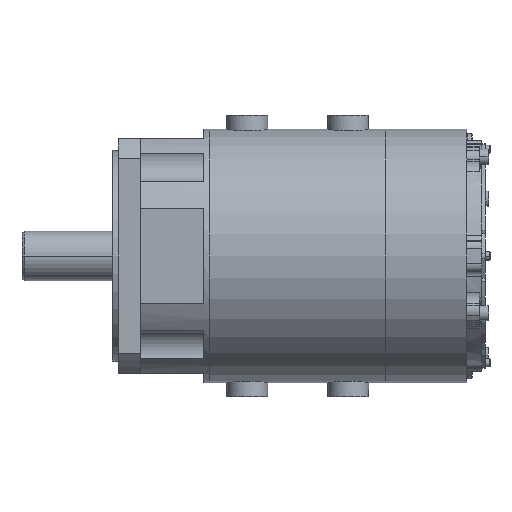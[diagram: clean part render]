
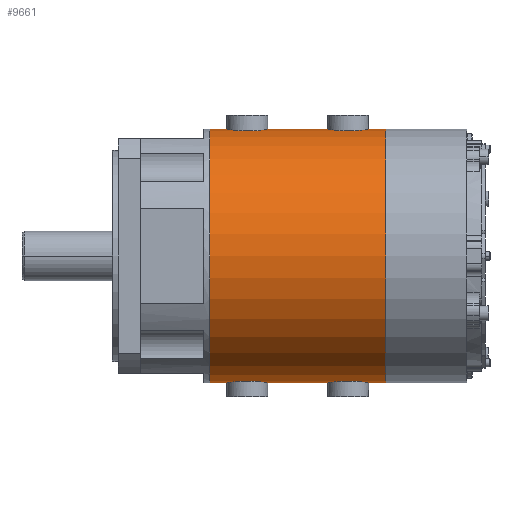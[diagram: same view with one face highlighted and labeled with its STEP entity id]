
A CAD part, front view. The second image highlights one B-rep face of the part: STEP entity #9661.
In plain terms, the highlighted cylindrical face has radius 108 mm (diameter 216 mm), a partial arc.
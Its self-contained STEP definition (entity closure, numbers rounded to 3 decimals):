
#7719=CARTESIAN_POINT('',(120.,0.,108.));
#7720=CARTESIAN_POINT('',(120.,-0.801,108.));
#7721=CARTESIAN_POINT('',(119.817,-2.364,107.983));
#7722=CARTESIAN_POINT('',(118.944,-4.698,107.905));
#7723=CARTESIAN_POINT('',(117.552,-6.697,107.797));
#7724=CARTESIAN_POINT('',(115.776,-8.282,107.685));
#7725=CARTESIAN_POINT('',(113.577,-9.45,107.587));
#7726=CARTESIAN_POINT('',(111.175,-10.026,107.534));
#7727=CARTESIAN_POINT('',(108.819,-10.025,107.534));
#7728=CARTESIAN_POINT('',(106.42,-9.449,107.587));
#7729=CARTESIAN_POINT('',(104.216,-8.278,107.685));
#7730=CARTESIAN_POINT('',(102.436,-6.684,107.798));
#7731=CARTESIAN_POINT('',(101.055,-4.693,107.905));
#7732=CARTESIAN_POINT('',(100.183,-2.363,107.983));
#7733=CARTESIAN_POINT('',(100.,-0.801,108.));
#7734=CARTESIAN_POINT('',(100.,0.,108.));
#7736=CARTESIAN_POINT('',(206.,0.,108.));
#7737=CARTESIAN_POINT('',(206.,-0.801,108.));
#7738=CARTESIAN_POINT('',(205.817,-2.364,107.983));
#7739=CARTESIAN_POINT('',(204.944,-4.698,107.905));
#7740=CARTESIAN_POINT('',(203.552,-6.697,107.797));
#7741=CARTESIAN_POINT('',(201.776,-8.282,107.685));
#7742=CARTESIAN_POINT('',(199.577,-9.45,107.587));
#7743=CARTESIAN_POINT('',(197.175,-10.026,107.534));
#7744=CARTESIAN_POINT('',(194.819,-10.025,107.534));
#7745=CARTESIAN_POINT('',(192.42,-9.449,107.587));
#7746=CARTESIAN_POINT('',(190.216,-8.278,107.685));
#7747=CARTESIAN_POINT('',(188.436,-6.684,107.798));
#7748=CARTESIAN_POINT('',(187.055,-4.693,107.905));
#7749=CARTESIAN_POINT('',(186.183,-2.363,107.983));
#7750=CARTESIAN_POINT('',(186.,-0.801,108.));
#7751=CARTESIAN_POINT('',(186.,0.,108.));
#7753=CARTESIAN_POINT('',(228.,0.,0.));
#7754=DIRECTION('',(1.,0.,0.));
#7755=DIRECTION('',(0.,0.,1.));
#7756=AXIS2_PLACEMENT_3D('',#7753,#7754,#7755);
#7758=DIRECTION('',(-1.,0.,0.));
#7759=VECTOR('',#7758,22.);
#7760=CARTESIAN_POINT('',(228.,0.,-108.));
#7761=LINE('',#7760,#7759);
#7762=CARTESIAN_POINT('',(186.,0.,-108.));
#7763=CARTESIAN_POINT('',(186.,-0.801,-108.));
#7764=CARTESIAN_POINT('',(186.183,-2.363,
-107.983));
#7765=CARTESIAN_POINT('',(187.054,-4.692,
-107.906));
#7766=CARTESIAN_POINT('',(188.436,-6.684,
-107.798));
#7767=CARTESIAN_POINT('',(190.216,-8.277,
-107.685));
#7768=CARTESIAN_POINT('',(192.419,-9.448,
-107.587));
#7769=CARTESIAN_POINT('',(194.819,-10.025,
-107.534));
#7770=CARTESIAN_POINT('',(197.175,-10.026,
-107.534));
#7771=CARTESIAN_POINT('',(199.577,-9.45,
-107.587));
#7772=CARTESIAN_POINT('',(201.776,-8.282,
-107.685));
#7773=CARTESIAN_POINT('',(203.551,-6.697,
-107.797));
#7774=CARTESIAN_POINT('',(204.944,-4.698,
-107.905));
#7775=CARTESIAN_POINT('',(205.817,-2.364,
-107.983));
#7776=CARTESIAN_POINT('',(206.,-0.801,-108.));
#7777=CARTESIAN_POINT('',(206.,0.,-108.));
#7779=DIRECTION('',(-1.,0.,0.));
#7780=VECTOR('',#7779,66.);
#7781=CARTESIAN_POINT('',(186.,0.,-108.));
#7782=LINE('',#7781,#7780);
#7783=CARTESIAN_POINT('',(100.,0.,-108.));
#7784=CARTESIAN_POINT('',(100.,-0.801,-108.));
#7785=CARTESIAN_POINT('',(100.183,-2.363,
-107.983));
#7786=CARTESIAN_POINT('',(101.054,-4.692,
-107.906));
#7787=CARTESIAN_POINT('',(102.436,-6.684,
-107.798));
#7788=CARTESIAN_POINT('',(104.216,-8.277,
-107.685));
#7789=CARTESIAN_POINT('',(106.419,-9.448,
-107.587));
#7790=CARTESIAN_POINT('',(108.819,-10.025,
-107.534));
#7791=CARTESIAN_POINT('',(111.175,-10.026,
-107.534));
#7792=CARTESIAN_POINT('',(113.577,-9.45,
-107.587));
#7793=CARTESIAN_POINT('',(115.776,-8.282,
-107.685));
#7794=CARTESIAN_POINT('',(117.551,-6.697,
-107.797));
#7795=CARTESIAN_POINT('',(118.944,-4.698,
-107.905));
#7796=CARTESIAN_POINT('',(119.817,-2.364,
-107.983));
#7797=CARTESIAN_POINT('',(120.,-0.801,-108.));
#7798=CARTESIAN_POINT('',(120.,0.,-108.));
#7800=DIRECTION('',(-1.,0.,0.));
#7801=VECTOR('',#7800,22.);
#7802=CARTESIAN_POINT('',(100.,0.,-108.));
#7803=LINE('',#7802,#7801);
#7804=CARTESIAN_POINT('',(78.,0.,0.));
#7805=DIRECTION('',(-1.,0.,0.));
#7806=DIRECTION('',(0.,0.,-1.));
#7807=AXIS2_PLACEMENT_3D('',#7804,#7805,#7806);
#9283=DIRECTION('',(-1.,0.,0.));
#9284=VECTOR('',#9283,22.);
#9285=CARTESIAN_POINT('',(100.,0.,108.));
#9286=LINE('',#9285,#9284);
#9331=DIRECTION('',(-1.,0.,0.));
#9332=VECTOR('',#9331,22.);
#9333=CARTESIAN_POINT('',(228.,0.,108.));
#9334=LINE('',#9333,#9332);
#9352=DIRECTION('',(-1.,0.,0.));
#9353=VECTOR('',#9352,66.);
#9354=CARTESIAN_POINT('',(186.,0.,108.));
#9355=LINE('',#9354,#9353);
#9392=CARTESIAN_POINT('',(228.,0.,-108.));
#9393=CARTESIAN_POINT('',(228.,0.,108.));
#9394=VERTEX_POINT('',#9392);
#9395=VERTEX_POINT('',#9393);
#9396=CARTESIAN_POINT('',(78.,0.,-108.));
#9397=CARTESIAN_POINT('',(78.,0.,108.));
#9398=VERTEX_POINT('',#9396);
#9399=VERTEX_POINT('',#9397);
#9606=VERTEX_POINT('',#7783);
#9607=VERTEX_POINT('',#7798);
#9608=VERTEX_POINT('',#7762);
#9609=VERTEX_POINT('',#7777);
#9614=CARTESIAN_POINT('',(120.,0.,108.));
#9616=VERTEX_POINT('',#9614);
#9618=CARTESIAN_POINT('',(100.,0.,108.));
#9620=VERTEX_POINT('',#9618);
#9622=CARTESIAN_POINT('',(206.,0.,108.));
#9624=VERTEX_POINT('',#9622);
#9626=CARTESIAN_POINT('',(186.,0.,108.));
#9628=VERTEX_POINT('',#9626);
#9630=CARTESIAN_POINT('',(228.,0.,0.));
#9631=DIRECTION('',(-1.,0.,0.));
#9632=DIRECTION('',(0.,0.,-1.));
#9633=AXIS2_PLACEMENT_3D('',#9630,#9631,#9632);
#9634=CYLINDRICAL_SURFACE('',#9633,108.);
#9636=ORIENTED_EDGE('',*,*,#9635,.F.);
#9638=ORIENTED_EDGE('',*,*,#9637,.F.);
#9640=ORIENTED_EDGE('',*,*,#9639,.F.);
#9642=ORIENTED_EDGE('',*,*,#9641,.F.);
#9644=ORIENTED_EDGE('',*,*,#9643,.T.);
#9646=ORIENTED_EDGE('',*,*,#9645,.T.);
#9648=ORIENTED_EDGE('',*,*,#9647,.F.);
#9650=ORIENTED_EDGE('',*,*,#9649,.T.);
#9652=ORIENTED_EDGE('',*,*,#9651,.F.);
#9654=ORIENTED_EDGE('',*,*,#9653,.T.);
#9656=ORIENTED_EDGE('',*,*,#9655,.T.);
#9658=ORIENTED_EDGE('',*,*,#9657,.F.);
#9659=EDGE_LOOP('',(#9636,#9638,#9640,#9642,#9644,#9646,#9648,#9650,#9652,#9654,
#9656,#9658));
#9660=FACE_OUTER_BOUND('',#9659,.F.);
#9661=ADVANCED_FACE('',(#9660),#9634,.T.);
#7735=B_SPLINE_CURVE_WITH_KNOTS('',3,(#7719,#7720,#7721,#7722,#7723,#7724,#7725,
#7726,#7727,#7728,#7729,#7730,#7731,#7732,#7733,#7734),.UNSPECIFIED.,.F.,.F.,(4,
1,1,1,1,1,1,1,1,1,1,1,1,4),(0.,0.077,0.154,
0.231,0.308,0.385,0.462,
0.538,0.615,0.692,0.769,
0.846,0.923,1.),.UNSPECIFIED.);
#7752=B_SPLINE_CURVE_WITH_KNOTS('',3,(#7736,#7737,#7738,#7739,#7740,#7741,#7742,
#7743,#7744,#7745,#7746,#7747,#7748,#7749,#7750,#7751),.UNSPECIFIED.,.F.,.F.,(4,
1,1,1,1,1,1,1,1,1,1,1,1,4),(0.,0.077,0.154,
0.231,0.308,0.385,0.462,
0.538,0.615,0.692,0.769,
0.846,0.923,1.),.UNSPECIFIED.);
#7757=CIRCLE('',#7756,108.);
#7778=B_SPLINE_CURVE_WITH_KNOTS('',3,(#7762,#7763,#7764,#7765,#7766,#7767,#7768,
#7769,#7770,#7771,#7772,#7773,#7774,#7775,#7776,#7777),.UNSPECIFIED.,.F.,.F.,(4,
1,1,1,1,1,1,1,1,1,1,1,1,4),(0.,0.077,0.154,
0.231,0.308,0.385,0.462,
0.538,0.615,0.692,0.769,
0.846,0.923,1.),.UNSPECIFIED.);
#7799=B_SPLINE_CURVE_WITH_KNOTS('',3,(#7783,#7784,#7785,#7786,#7787,#7788,#7789,
#7790,#7791,#7792,#7793,#7794,#7795,#7796,#7797,#7798),.UNSPECIFIED.,.F.,.F.,(4,
1,1,1,1,1,1,1,1,1,1,1,1,4),(0.,0.077,0.154,
0.231,0.308,0.385,0.462,
0.538,0.615,0.692,0.769,
0.846,0.923,1.),.UNSPECIFIED.);
#7808=CIRCLE('',#7807,108.);
#9635=EDGE_CURVE('',#9616,#9620,#7735,.T.);
#9637=EDGE_CURVE('',#9628,#9616,#9355,.T.);
#9639=EDGE_CURVE('',#9624,#9628,#7752,.T.);
#9641=EDGE_CURVE('',#9395,#9624,#9334,.T.);
#9643=EDGE_CURVE('',#9395,#9394,#7757,.T.);
#9645=EDGE_CURVE('',#9394,#9609,#7761,.T.);
#9647=EDGE_CURVE('',#9608,#9609,#7778,.T.);
#9649=EDGE_CURVE('',#9608,#9607,#7782,.T.);
#9651=EDGE_CURVE('',#9606,#9607,#7799,.T.);
#9653=EDGE_CURVE('',#9606,#9398,#7803,.T.);
#9655=EDGE_CURVE('',#9398,#9399,#7808,.T.);
#9657=EDGE_CURVE('',#9620,#9399,#9286,.T.);
